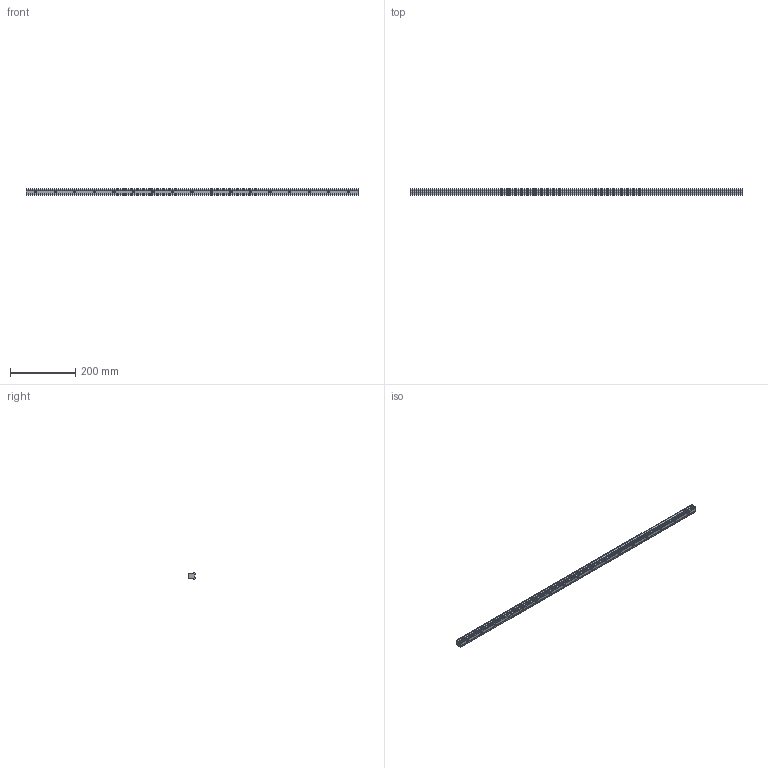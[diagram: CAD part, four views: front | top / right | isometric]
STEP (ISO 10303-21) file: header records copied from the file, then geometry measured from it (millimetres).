
FILE_DESCRIPTION (( 'STEP AP203' ), '1' );
FILE_NAME ('L1018.20R-1020.step', '2023-08-06T09:07:02', ( '' ), ( '' ), 'SwSTEP 2.0', 'SolidWorks 2019', '' );
FILE_SCHEMA (( 'CONFIG_CONTROL_DESIGN' ));
Length unit declared in the file: millimetre
Products named in the file (1): L1018.20R-1020
Bounding box: 1020 x 19.3 x 20 mm (x, y, z)
Volume: 323470.8 mm3; surface area: 86726.3 mm2
Topology: 1 solids, 1 shells, 182 faces, 421 edges, 241 vertices
Faces by surface type: cylinder 71, cone 68, plane 43
Entity records: 4976 total; most frequent: DIRECTION 929, CARTESIAN_POINT 811, ORIENTED_EDGE 774, EDGE_CURVE 387, AXIS2_PLACEMENT_3D 359, VERTEX_POINT 241, EDGE_LOOP 216, LINE 211
